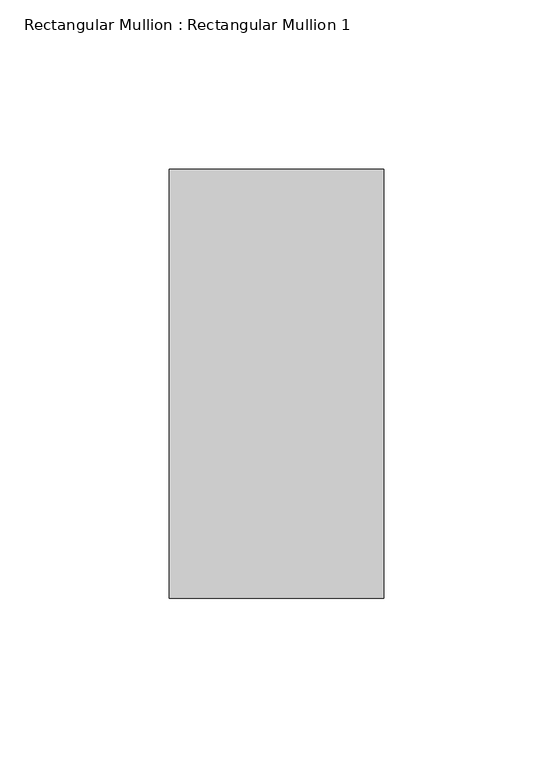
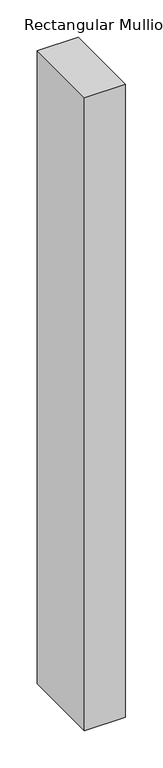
"""IFC4 building model written with IfcOpenShell, lengths in millimetres: member geometry, Rectangular Mullion : Rectangular Mullion 1."""

from ifc_helpers import new_model, si_unit, frame, origin, place, context, project, spatial, polyline, outline, extrude, source, transform, mapped, element, save


def rectangular_mullion_rectangular_mullion_1_ff0bbc08(model_context):
    return source(origin(), model_context, "Body", "SweptSolid", [
        extrude(outline(polyline([(0.0, 63.5), (0.0, -63.5), (-63.5, -63.5), (-63.5, 63.5), (0.0, 63.5)])), frame((0.0, 0.0, -1038.6785715), z_axis=(0.0, 0.0, 1.0), x_axis=(1.0, 0.0, 0.0)), (0.0, 0.0, 1.0), 1038.6785715),
    ])


if __name__ == "__main__":
    model = new_model("IFC4")
    model_context = context("Model", 3, world=origin())
    ifc_project = project(units=[si_unit("LENGTHUNIT", "METRE", prefix="MILLI")], contexts=[model_context])
    site = spatial("IfcSite", under=ifc_project)
    building = spatial("IfcBuilding", under=site)
    placement = place(None, origin())
    rectangular_mullion_rectangular_mullion_1_shape = rectangular_mullion_rectangular_mullion_1_ff0bbc08(model_context)
    element("IfcMember", 1, ObjectType="Rectangular Mullion : Rectangular Mullion 1", at=placement, inside=building, context=model_context, shape_type="MappedRepresentation", body=[
        mapped(rectangular_mullion_rectangular_mullion_1_shape, transform((0.0, 0.0, 0.0), x_axis=(1.0, 0.0, 0.0), y_axis=(0.0, 1.0, 0.0), z_axis=(0.0, 0.0, 1.0))),
    ])
    save(model, "model.ifc")
